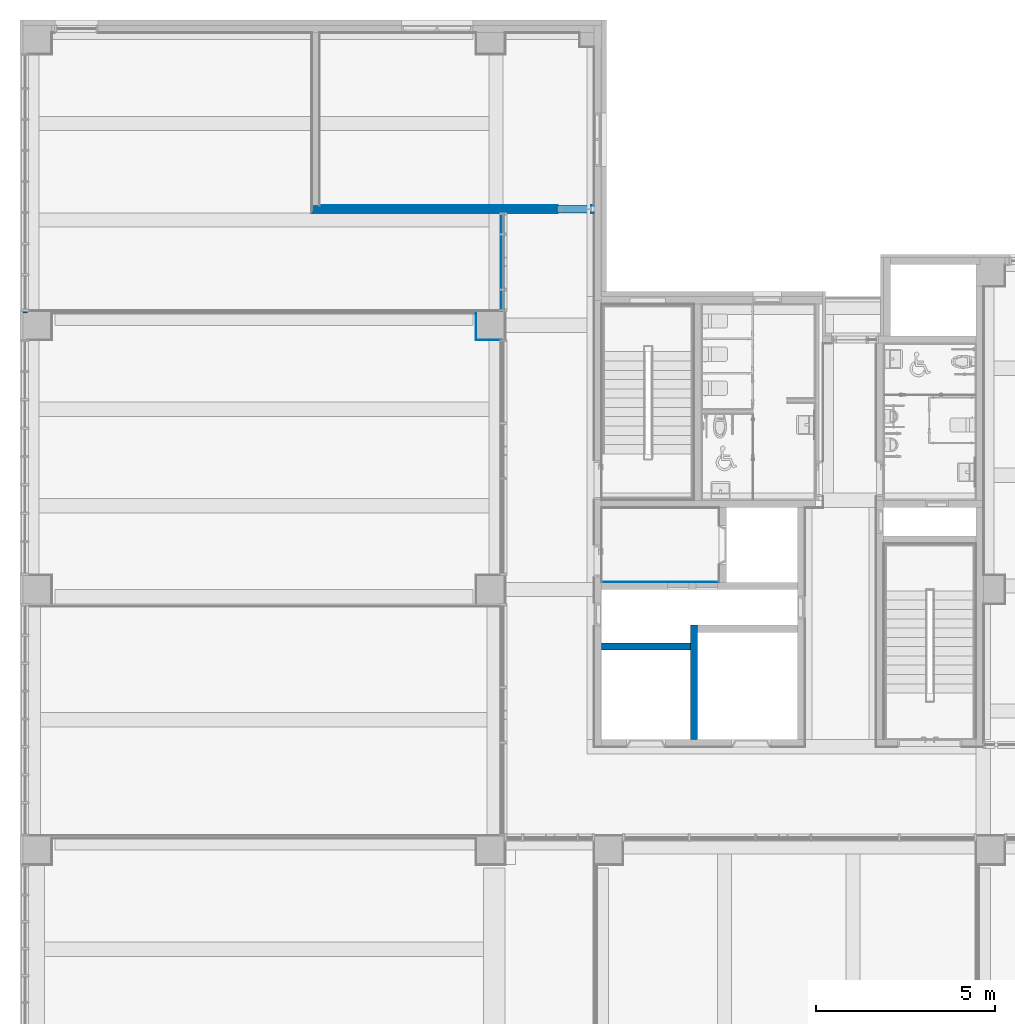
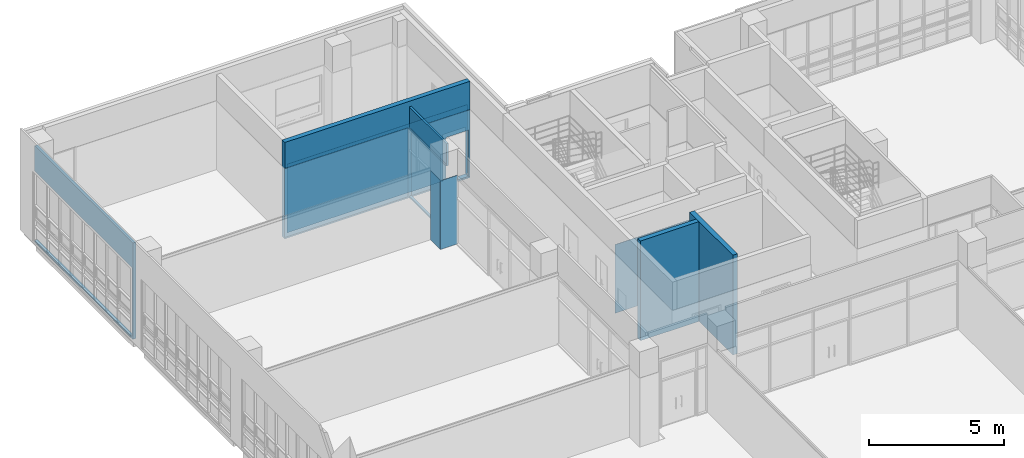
# One storey, part 50 of 74: 12 walls, 12 openings.
"""IFC2X3 building model written with IfcOpenShell, lengths in millimetres."""

from ifc_helpers import new_model, entity, si_unit, converted_unit, derived_unit, direction, frame, frame_2d, origin, origin_2d_with_axis, place, context, subcontext, project, spatial, polyline, rectangle, extrude, clip, bounded_halfspace, material, layer, layer_set, layer_usage, type_object, element, save


model = new_model("IFC2X3")

# Units and contexts
model_context = context("Model", 3, precision=0.01, world=origin(), true_north=direction((6.123031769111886e-17, 1.0)))
body_context = subcontext(model_context, "Body", "Model", "MODEL_VIEW")
ifc_project = project(units=[si_unit("LENGTHUNIT", "METRE", prefix="MILLI"), si_unit("AREAUNIT", "SQUARE_METRE"), si_unit("VOLUMEUNIT", "CUBIC_METRE"), converted_unit("PLANEANGLEUNIT", "DEGREE", entity("IfcRatioMeasure", 0.017453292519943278), si_unit("PLANEANGLEUNIT", "RADIAN"), dimensions=[0, 0, 0, 0, 0, 0, 0]), si_unit("MASSUNIT", "GRAM", prefix="KILO"), derived_unit("MASSDENSITYUNIT", [(si_unit("MASSUNIT", "GRAM", prefix="KILO"), 1), (si_unit("LENGTHUNIT", "METRE"), -3)]), derived_unit("MOMENTOFINERTIAUNIT", [(si_unit("LENGTHUNIT", "METRE"), 4)]), si_unit("TIMEUNIT", "SECOND"), si_unit("FREQUENCYUNIT", "HERTZ"), si_unit("THERMODYNAMICTEMPERATUREUNIT", "DEGREE_CELSIUS"), derived_unit("THERMALTRANSMITTANCEUNIT", [(si_unit("MASSUNIT", "GRAM", prefix="KILO"), 1), (si_unit("THERMODYNAMICTEMPERATUREUNIT", "KELVIN"), -1), (si_unit("TIMEUNIT", "SECOND"), -3)]), derived_unit("VOLUMETRICFLOWRATEUNIT", [(si_unit("LENGTHUNIT", "METRE"), 3), (si_unit("TIMEUNIT", "SECOND"), -1)]), derived_unit("MASSFLOWRATEUNIT", [(si_unit("MASSUNIT", "GRAM", prefix="KILO"), 1), (si_unit("TIMEUNIT", "SECOND"), -1)]), derived_unit("ROTATIONALFREQUENCYUNIT", [(si_unit("TIMEUNIT", "SECOND"), -1)]), si_unit("ELECTRICCURRENTUNIT", "AMPERE"), si_unit("ELECTRICVOLTAGEUNIT", "VOLT"), si_unit("POWERUNIT", "WATT"), si_unit("FORCEUNIT", "NEWTON", prefix="KILO"), si_unit("ILLUMINANCEUNIT", "LUX"), si_unit("LUMINOUSFLUXUNIT", "LUMEN"), si_unit("LUMINOUSINTENSITYUNIT", "CANDELA"), derived_unit("USERDEFINED", [(si_unit("MASSUNIT", "GRAM", prefix="KILO"), -1), (si_unit("LENGTHUNIT", "METRE"), -2), (si_unit("TIMEUNIT", "SECOND"), 3), (si_unit("LUMINOUSFLUXUNIT", "LUMEN"), 1)]), derived_unit("SOUNDPOWERUNIT", [(si_unit("MASSUNIT", "GRAM", prefix="KILO"), 1), (si_unit("LENGTHUNIT", "METRE"), 2), (si_unit("TIMEUNIT", "SECOND"), -3)]), derived_unit("SOUNDPRESSUREUNIT", [(si_unit("MASSUNIT", "GRAM", prefix="KILO"), 1), (si_unit("LENGTHUNIT", "METRE"), -1), (si_unit("TIMEUNIT", "SECOND"), -2)]), derived_unit("LINEARVELOCITYUNIT", [(si_unit("LENGTHUNIT", "METRE"), 1), (si_unit("TIMEUNIT", "SECOND"), -1)]), si_unit("PRESSUREUNIT", "PASCAL"), derived_unit("USERDEFINED", [(si_unit("LENGTHUNIT", "METRE"), -2), (si_unit("MASSUNIT", "GRAM", prefix="KILO"), 1), (si_unit("TIMEUNIT", "SECOND"), -2)]), derived_unit("LINEARFORCEUNIT", [(si_unit("MASSUNIT", "GRAM", prefix="KILO"), 1), (si_unit("LENGTHUNIT", "METRE"), 1), (si_unit("TIMEUNIT", "SECOND"), -2), (si_unit("LENGTHUNIT", "METRE"), -1)]), derived_unit("PLANARFORCEUNIT", [(si_unit("MASSUNIT", "GRAM", prefix="KILO"), 1), (si_unit("LENGTHUNIT", "METRE"), 1), (si_unit("TIMEUNIT", "SECOND"), -2), (si_unit("LENGTHUNIT", "METRE"), -2)])], contexts=[model_context])

# Site, building, storey
site_placement = place(None, frame((-14167.972527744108, -657.2125860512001, 0.0)))
site = spatial("IfcSite", under=ifc_project, at=site_placement, Name="Default", CompositionType="ELEMENT")
building_placement = place(site_placement, origin())
building = spatial("IfcBuilding", under=site, at=building_placement, Name="Sample Building", CompositionType="ELEMENT")
storey_placement = place(building_placement, frame((0.0, 0.0, 4800.0)))
storey = spatial("IfcBuildingStorey", under=building, at=storey_placement, Name="지상 2층", CompositionType="ELEMENT", Elevation=4800.000000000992)

# Walls
ifc_material_1 = material(Name="KBIMS-콘크리트")
ifc_layer_1 = layer(ifc_material_1, 200.0)
ifc_layer_set_1 = layer_set([ifc_layer_1], Name="기본 벽:WA111-철근콘크리트구조 벽 200mm_CW1")
ifc_layer_usage_1 = layer_usage(ifc_layer_set_1, "AXIS2", "NEGATIVE", 100.0)
wall_type_1 = type_object("IfcWallType", Name="기본 벽:WA111-철근콘크리트구조 벽 200mm_CW1", PredefinedType="STANDARD", material=ifc_layer_set_1)
wall_1_placement = place(storey_placement, frame((32867.97271708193, 15753.302947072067, -1.9340006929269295e-09), z_axis=(0.0, 0.0, 1.0), x_axis=(0.0, 1.0, 0.0)))
element("IfcWallStandardCase", 1, at=wall_1_placement, inside=storey, type_object=wall_type_1, material=ifc_layer_usage_1, Name="기본 벽:WA111-철근콘크리트구조 벽 200mm_CW1", ObjectType="기본 벽:WA111-철근콘크리트구조 벽 200mm_CW1", context=body_context, shape_type="SweptSolid", body=[
    extrude(rectangle(XDim=3203.9093625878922, YDim=200.0000000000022, at=frame_2d((1601.954681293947, -2.1032064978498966e-12), x_axis=(-1.0, 0.0))), origin(), (0.0, 0.0, 1.0), 4500.000000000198),
])
ifc_layer_usage_2 = layer_usage(ifc_layer_set_1, "AXIS2", "NEGATIVE", 100.0)
wall_2_placement = place(storey_placement, frame((32767.97271708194, 18357.212309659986, -1.9340006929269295e-09), z_axis=(0.0, 0.0, 1.0), x_axis=(-1.0, 0.0, 0.0)))
element("IfcWallStandardCase", 2, at=wall_2_placement, inside=storey, type_object=wall_type_1, material=ifc_layer_usage_2, Name="기본 벽:WA111-철근콘크리트구조 벽 200mm_CW1", ObjectType="기본 벽:WA111-철근콘크리트구조 벽 200mm_CW1", context=body_context, shape_type="SweptSolid", body=[
    extrude(rectangle(XDim=2500.008955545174, YDim=200.0, at=frame_2d((1250.004477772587, 9.592326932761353e-13), x_axis=(-1.0, 0.0))), origin(), (0.0, 0.0, 1.0), 4500.000000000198),
])

# Wall, opening
ifc_layer_usage_3 = layer_usage(ifc_layer_set_1, "AXIS2", "NEGATIVE", 100.0)
wall_3_placement = place(storey_placement, frame((30067.96376153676, 30607.21227524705, 0.0), z_axis=(0.0, 0.0, 1.0), x_axis=(-1.0, 0.0, 0.0)))
wall_3 = element("IfcWallStandardCase", 3, at=wall_3_placement, inside=storey, type_object=wall_type_1, material=ifc_layer_usage_3, Name="기본 벽:WA111-철근콘크리트구조 벽 200mm_CW1", ObjectType="기본 벽:WA111-철근콘크리트구조 벽 200mm_CW1", context=body_context, shape_type="Clipping", body=[
    clip(extrude(rectangle(XDim=7899.991270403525, YDim=199.99999999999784, at=frame_2d((3949.9956352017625, 2.4868995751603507e-13), x_axis=(-1.0, 0.0))), origin(), (0.0, 0.0, 1.0), 4350.0000000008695), bounded_halfspace(frame((7899.991270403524, -100.0, 4350.0), z_axis=(0.0, 0.0, -1.0), x_axis=(-1.0, 0.0, 0.0)), True, frame((7899.991270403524, -100.0, 4350.0), z_axis=(0.0, 0.0, -1.0), x_axis=(-1.0, 0.0, 0.0)), polyline([(0.0, 0.0), (60960.0, 0.0), (2407917.3392189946, 8.073857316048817e-09), (2407917.3392189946, 60960.0), (0.0, 60960.0), (0.0, 0.0)]))),
])
opening_1_placement = place(wall_3_placement, frame((1025.0, 100.0, 80.0)))
element("IfcOpeningElement", 4, at=opening_1_placement, cuts=wall_3, Name="DR111-외여닫이문(철재, 일반, 양개):DR111-외여닫이문(유리, 일반, 양개) 950x2100mm:1", ObjectType="Opening", context=body_context, shape_type="SweptSolid", body=[
    extrude(rectangle(XDim=2099.9999999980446, YDim=949.9999999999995, at=frame_2d((1049.9999999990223, 474.9999999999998), x_axis=(1.0, 0.0))), frame((0.0, 0.0, 0.0), z_axis=(0.0, -1.0, 0.0), x_axis=(0.0, 0.0, 1.0)), (0.0, 0.0, 1.0), 200.0),
])

# Wall, openings
ifc_material_2 = material(Name="KBIMS-시멘트 벽돌")
ifc_layer_2 = layer(ifc_material_2, 90.0)
ifc_layer_set_2 = layer_set([ifc_layer_2], Name="기본 벽:WA211-시멘트벽돌(일반) 벽 (0.5B) 90mm")
ifc_layer_usage_4 = layer_usage(ifc_layer_set_2, "AXIS2", "NEGATIVE", 45.0)
wall_type_2 = type_object("IfcWallType", Name="기본 벽:WA211-시멘트벽돌(일반) 벽 (0.5B) 90mm", PredefinedType="STANDARD", material=ifc_layer_set_2)
wall_4_placement = place(storey_placement, frame((27522.98031454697, 30507.21227524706, 0.0), z_axis=(0.0, 0.0, 1.0), x_axis=(0.0, -1.0, 0.0)))
wall_4 = element("IfcWallStandardCase", 5, at=wall_4_placement, inside=storey, type_object=wall_type_2, material=ifc_layer_usage_4, Name="기본 벽:WA211-시멘트벽돌(일반) 벽 (0.5B) 90mm", ObjectType="기본 벽:WA211-시멘트벽돌(일반) 벽 (0.5B) 90mm", context=body_context, shape_type="SweptSolid", body=[
    extrude(rectangle(XDim=2749.9999672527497, YDim=90.0000000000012, at=frame_2d((1374.9999836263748, -2.277289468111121e-12), x_axis=(-1.0, 0.0))), origin(), (0.0, 0.0, 1.0), 4100.000000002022),
])
opening_2_placement = place(wall_4_placement, origin())
element("IfcOpeningElement", 6, at=opening_2_placement, cuts=wall_4, Name="기본 벽:WA211-시멘트벽돌(일반) 벽 (0.5B) 90mm", ObjectType="Opening", context=body_context, shape_type="SweptSolid", body=[
    extrude(rectangle(XDim=3020.000000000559, YDim=2749.9996891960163, at=frame_2d((0.0, -2.1600499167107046e-12), x_axis=(1.0, 0.0))), frame((1374.9998445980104, -197.40000000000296, 1590.0), z_axis=(0.0, 1.0, 0.0), x_axis=(0.0, 0.0, 1.0)), (0.0, 0.0, 1.0), 394.8000000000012),
])
opening_3_placement = place(wall_4_placement, origin())
element("IfcOpeningElement", 7, at=opening_3_placement, cuts=wall_4, Name="기본 벽:WA211-시멘트벽돌(일반) 벽 (0.5B) 90mm", ObjectType="Opening", context=body_context, shape_type="SweptSolid", body=[
    extrude(rectangle(XDim=3020.000000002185, YDim=6500.0, at=frame_2d((0.0, 2.0463630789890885e-12), x_axis=(1.0, 0.0))), frame((14199.99996725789, -197.40000000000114, 1590.0), z_axis=(0.0, 1.0, 0.0), x_axis=(0.0, 0.0, 1.0)), (0.0, 0.0, 1.0), 394.8000000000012),
])
opening_4_placement = place(wall_4_placement, origin())
element("IfcOpeningElement", 8, at=opening_4_placement, cuts=wall_4, Name="기본 벽:WA211-시멘트벽돌(일반) 벽 (0.5B) 90mm", ObjectType="Opening", context=body_context, shape_type="SweptSolid", body=[
    extrude(rectangle(XDim=3020.000000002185, YDim=6599.999999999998, at=origin_2d_with_axis()), frame((6849.999967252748, -197.39999999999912, 1590.0), z_axis=(0.0, 1.0, 0.0), x_axis=(0.0, 0.0, 1.0)), (0.0, 0.0, 1.0), 394.8000000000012),
])

# Wall, opening
ifc_layer_3 = layer(ifc_material_1, 125.00000000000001)
ifc_layer_set_3 = layer_set([ifc_layer_3], Name="기본 벽:WA111-철근콘크리트구조 벽 125mm_W3")
ifc_layer_usage_5 = layer_usage(ifc_layer_set_3, "AXIS2", "NEGATIVE", 62.50000000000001)
wall_type_3 = type_object("IfcWallType", Name="기본 벽:WA111-철근콘크리트구조 벽 125mm_W3", PredefinedType="STANDARD", material=ifc_layer_set_3)
wall_5_placement = place(storey_placement, frame((14130.47257087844, 34957.21228055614, -1.9340006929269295e-09), z_axis=(0.0, 0.0, 1.0), x_axis=(0.0, -1.0, 0.0)))
wall_5 = element("IfcWallStandardCase", 9, at=wall_5_placement, inside=storey, type_object=wall_type_3, material=ifc_layer_usage_5, Name="기본 벽:WA111-철근콘크리트구조 벽 125mm_W3", ObjectType="기본 벽:WA111-철근콘크리트구조 벽 125mm_W3", context=body_context, shape_type="Clipping", body=[
    clip(extrude(rectangle(XDim=7249.999694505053, YDim=124.99999999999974, at=frame_2d((3624.9998472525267, 1.0906830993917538e-12), x_axis=(-1.0, 0.0))), origin(), (0.0, 0.0, 1.0), 4350.000000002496), bounded_halfspace(frame((0.0, -62.49999999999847, 4350.0), z_axis=(0.0, 0.0, -1.0), x_axis=(0.0, 1.0, 0.0)), True, frame((0.0, -62.49999999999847, 4350.0), z_axis=(0.0, 0.0, -1.0), x_axis=(0.0, 1.0, 0.0)), polyline([(0.0, 0.0), (38100.0, 0.0), (38100.0, 2194559.897438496), (38100.0, 2209799.9068851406), (0.0, 2209799.9068851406), (0.0, 0.0)]))),
])
opening_5_placement = place(wall_5_placement, origin())
element("IfcOpeningElement", 10, at=opening_5_placement, cuts=wall_5, Name="기본 벽:WA111-철근콘크리트구조 벽 125mm_W3", ObjectType="Opening", context=body_context, shape_type="SweptSolid", body=[
    extrude(rectangle(XDim=3120.0000000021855, YDim=7209.999999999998, at=frame_2d((-5.684341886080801e-13, 0.0), x_axis=(1.0, 0.0))), frame((3595.0, -214.8999999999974, 1640.0), z_axis=(0.0, 1.0, 0.0), x_axis=(0.0, 0.0, 1.0)), (0.0, 0.0, 1.0), 429.7999999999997),
])

# Wall, openings
ifc_material_3 = material(Name="WA611-수성페인트 (내부) 벽 (3회)")
ifc_layer_4 = layer(ifc_material_3, 1.0)
ifc_material_4 = material(Name="WA551-시멘트모르타르 (내부) 벽 18mm")
ifc_layer_5 = layer(ifc_material_4, 16.0)
ifc_material_5 = material(Name="WA555-콘크리트면정리 벽 (내부)")
ifc_layer_6 = layer(ifc_material_5, 1.0)
ifc_layer_set_4 = layer_set([ifc_layer_4, ifc_layer_5, ifc_layer_6], Name="기본 벽:A1-32-06A-콘크리트면정리, 시멘트모르타르(미장용), 수성페인트(내부) (18mm)")
ifc_layer_usage_6 = layer_usage(ifc_layer_set_4, "AXIS2", "POSITIVE", -9.000000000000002)
wall_type_4 = type_object("IfcWallType", Name="기본 벽:A1-32-06A-콘크리트면정리, 시멘트모르타르(미장용), 수성페인트(내부) (18mm)", PredefinedType="STANDARD", material=ifc_layer_set_4)
wall_6_placement = place(storey_placement, frame((33567.97249113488, 20166.21230798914, 80.0), z_axis=(0.0, 0.0, 1.0), x_axis=(-1.0, 0.0, 0.0)))
wall_6 = element("IfcWallStandardCase", 11, at=wall_6_placement, inside=storey, type_object=wall_type_4, material=ifc_layer_usage_6, Name="기본 벽:A1-32-06A-콘크리트면정리, 시멘트모르타르(미장용), 수성페인트(내부) (18mm)", ObjectType="기본 벽:A1-32-06A-콘크리트면정리, 시멘트모르타르(미장용), 수성페인트(내부) (18mm)", context=body_context, shape_type="SweptSolid", body=[
    extrude(rectangle(XDim=3282.008729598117, YDim=18.00000000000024, at=frame_2d((1641.0043647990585, -1.645794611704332e-12), x_axis=(-1.0, 0.0))), origin(), (0.0, 0.0, 1.0), 3100.000000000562),
])
opening_6_placement = place(wall_6_placement, origin())
element("IfcOpeningElement", 12, at=opening_6_placement, cuts=wall_6, Name="기본 벽:A1-32-06A-콘크리트면정리, 시멘트모르타르(미장용), 수성페인트(내부) (18mm)", ObjectType="Opening", context=body_context, shape_type="SweptSolid", body=[
    extrude(rectangle(XDim=800.0000000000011, YDim=600.0000000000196, at=frame_2d((5.684341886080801e-13, 0.0), x_axis=(1.0, 0.0))), frame((1150.0001804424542, -1315.0, 820.0), z_axis=(0.0, 1.0, 0.0), x_axis=(0.0, 0.0, -1.0)), (0.0, 0.0, 1.0), 3048.0),
])
opening_7_placement = place(wall_6_placement, origin())
element("IfcOpeningElement", 13, at=opening_7_placement, cuts=wall_6, Name="기본 벽:A1-32-06A-콘크리트면정리, 시멘트모르타르(미장용), 수성페인트(내부) (18mm)", ObjectType="Opening", context=body_context, shape_type="SweptSolid", body=[
    extrude(rectangle(XDim=800.0000000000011, YDim=600.0000000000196, at=frame_2d((0.0, -5.684341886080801e-13), x_axis=(0.0, 1.0))), frame((349.99990978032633, -1315.0, 820.0), z_axis=(0.0, 1.0, 0.0), x_axis=(1.0, 0.0, 0.0)), (0.0, 0.0, 1.0), 3048.0000000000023),
])

# Wall, opening
ifc_layer_usage_7 = layer_usage(ifc_layer_set_4, "AXIS2", "NEGATIVE", 9.000000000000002)
wall_7_placement = place(storey_placement, frame((22385.972491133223, 30716.212275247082, 80.0)))
wall_7 = element("IfcWallStandardCase", 14, at=wall_7_placement, inside=storey, type_object=wall_type_4, material=ifc_layer_usage_7, Name="기본 벽:A1-32-06A-콘크리트면정리, 시멘트모르타르(미장용), 수성페인트(내부) (18mm)", ObjectType="기본 벽:A1-32-06A-콘크리트면정리, 시멘트모르타르(미장용), 수성페인트(내부) (18mm)", context=body_context, shape_type="SweptSolid", body=[
    extrude(rectangle(XDim=7681.99127040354, YDim=18.00000000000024, at=frame_2d((3840.99563520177, -6.439293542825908e-13), x_axis=(1.0, 0.0))), origin(), (0.0, 0.0, 1.0), 3100.0000000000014),
])
opening_8_placement = place(wall_7_placement, origin())
element("IfcOpeningElement", 15, at=opening_8_placement, cuts=wall_7, Name="기본 벽:A1-32-06A-콘크리트면정리, 시멘트모르타르(미장용), 수성페인트(내부) (18mm)", ObjectType="Opening", context=body_context, shape_type="SweptSolid", body=[
    extrude(rectangle(XDim=2099.9999999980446, YDim=950.0000000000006, at=frame_2d((0.0, -5.684341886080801e-13), x_axis=(0.0, 1.0))), frame((7131.991270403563, -1733.0, 1050.0), z_axis=(0.0, 1.0, 0.0), x_axis=(-1.0, 0.0, 0.0)), (0.0, 0.0, 1.0), 3048.0),
])

# Wall, openings
ifc_layer_usage_8 = layer_usage(ifc_layer_set_4, "AXIS2", "NEGATIVE", 9.000000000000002)
wall_8_placement = place(storey_placement, frame((27468.98031454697, 27757.212307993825, 3100.0), z_axis=(0.0, 0.0, 1.0), x_axis=(0.0, 1.0, 0.0)))
wall_8 = element("IfcWallStandardCase", 16, at=wall_8_placement, inside=storey, type_object=wall_type_4, material=ifc_layer_usage_8, Name="기본 벽:A1-32-06A-콘크리트면정리, 시멘트모르타르(미장용), 수성페인트(내부) (18mm)", ObjectType="기본 벽:A1-32-06A-콘크리트면정리, 시멘트모르타르(미장용), 수성페인트(내부) (18mm)", context=body_context, shape_type="SweptSolid", body=[
    extrude(rectangle(XDim=2749.9999672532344, YDim=18.00000000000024, at=frame_2d((1374.9999836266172, -1.3837819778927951e-12), x_axis=(1.0, 0.0))), origin(), (0.0, 0.0, 1.0), 79.99999999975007),
])
opening_9_placement = place(wall_8_placement, origin())
element("IfcOpeningElement", 17, at=opening_9_placement, cuts=wall_8, Name="기본 벽:A1-32-06A-콘크리트면정리, 시멘트모르타르(미장용), 수성페인트(내부) (18mm)", ObjectType="Opening", context=body_context, shape_type="SweptSolid", body=[
    extrude(rectangle(XDim=3020.000000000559, YDim=2749.9996891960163, at=frame_2d((2.1600499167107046e-12, 0.0), x_axis=(0.0, 1.0))), frame((1375.0001226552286, -161.4000000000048, -1510.0), z_axis=(0.0, 1.0, 0.0), x_axis=(-1.0, 0.0, 0.0)), (0.0, 0.0, 1.0), 322.80000000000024),
])
opening_10_placement = place(wall_8_placement, origin())
element("IfcOpeningElement", 18, at=opening_10_placement, cuts=wall_8, Name="기본 벽:A1-32-06A-콘크리트면정리, 시멘트모르타르(미장용), 수성페인트(내부) (18mm)", ObjectType="Opening", context=body_context, shape_type="SweptSolid", body=[
    extrude(rectangle(XDim=3020.000000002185, YDim=6599.999999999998, at=frame_2d((0.0, 0.0), x_axis=(0.0, 1.0))), frame((-4100.0, -161.3999999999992, -1510.0), z_axis=(0.0, 1.0, 0.0), x_axis=(-1.0, 0.0, 0.0)), (0.0, 0.0, 1.0), 322.80000000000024),
])
opening_11_placement = place(wall_8_placement, origin())
element("IfcOpeningElement", 19, at=opening_11_placement, cuts=wall_8, Name="기본 벽:A1-32-06A-콘크리트면정리, 시멘트모르타르(미장용), 수성페인트(내부) (18mm)", ObjectType="Opening", context=body_context, shape_type="SweptSolid", body=[
    extrude(rectangle(XDim=3020.000000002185, YDim=6499.999999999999, at=frame_2d((0.0, 0.0), x_axis=(0.0, 1.0))), frame((-11450.0, -161.40000000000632, -1510.0), z_axis=(0.0, 1.0, 0.0), x_axis=(-1.0, 0.0, 0.0)), (0.0, 0.0, 1.0), 322.80000000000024),
])

# Walls
ifc_layer_usage_9 = layer_usage(ifc_layer_set_4, "AXIS2", "NEGATIVE", 9.000000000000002)
wall_9_placement = place(storey_placement, frame((27422.980314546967, 30498.21227524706, 80.0), z_axis=(0.0, 0.0, 1.0), x_axis=(-1.0, 0.0, 0.0)))
element("IfcWallStandardCase", 20, at=wall_9_placement, inside=storey, type_object=wall_type_4, material=ifc_layer_usage_9, Name="기본 벽:A1-32-06A-콘크리트면정리, 시멘트모르타르(미장용), 수성페인트(내부) (18mm)", ObjectType="기본 벽:A1-32-06A-콘크리트면정리, 시멘트모르타르(미장용), 수성페인트(내부) (18mm)", context=body_context, shape_type="SweptSolid", body=[
    extrude(rectangle(XDim=5273.007823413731, YDim=18.00000000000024, at=frame_2d((2636.5039117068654, -2.1662671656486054e-12), x_axis=(-1.0, 0.0))), origin(), (0.0, 0.0, 1.0), 3100.0000000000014),
])
ifc_layer_usage_10 = layer_usage(ifc_layer_set_4, "AXIS2", "NEGATIVE", 9.000000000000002)
wall_10_placement = place(storey_placement, frame((27478.06176345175, 26948.21230799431, 80.0), z_axis=(0.0, 0.0, 1.0), x_axis=(-1.0, 0.0, 0.0)))
element("IfcWallStandardCase", 21, at=wall_10_placement, inside=storey, type_object=wall_type_4, material=ifc_layer_usage_10, Name="기본 벽:A1-32-06A-콘크리트면정리, 시멘트모르타르(미장용), 수성페인트(내부) (18mm)", ObjectType="기본 벽:A1-32-06A-콘크리트면정리, 시멘트모르타르(미장용), 수성페인트(내부) (18mm)", context=body_context, shape_type="SweptSolid", body=[
    extrude(rectangle(XDim=728.0892723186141, YDim=18.00000000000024, at=frame_2d((364.04463615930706, -2.1662671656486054e-12), x_axis=(-1.0, 0.0))), origin(), (0.0, 0.0, 1.0), 3100.0000000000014),
])
ifc_layer_usage_11 = layer_usage(ifc_layer_set_4, "AXIS2", "NEGATIVE", 9.000000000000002)
wall_11_placement = place(storey_placement, frame((26758.972491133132, 26957.21230799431, 80.0), z_axis=(0.0, 0.0, 1.0), x_axis=(0.0, 1.0, 0.0)))
element("IfcWallStandardCase", 22, at=wall_11_placement, inside=storey, type_object=wall_type_4, material=ifc_layer_usage_11, Name="기본 벽:A1-32-06A-콘크리트면정리, 시멘트모르타르(미장용), 수성페인트(내부) (18mm)", ObjectType="기본 벽:A1-32-06A-콘크리트면정리, 시멘트모르타르(미장용), 수성페인트(내부) (18mm)", context=body_context, shape_type="SweptSolid", body=[
    extrude(rectangle(XDim=737.4999999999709, YDim=18.00000000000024, at=frame_2d((368.74999999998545, -2.1662671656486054e-12), x_axis=(-1.0, 0.0))), origin(), (0.0, 0.0, 1.0), 3100.0000000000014),
])

# Wall, opening
ifc_layer_usage_12 = layer_usage(ifc_layer_set_4, "AXIS2", "NEGATIVE", 9.000000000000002)
wall_12_placement = place(storey_placement, frame((30049.96376153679, 30498.212275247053, 80.0), z_axis=(0.0, 0.0, 1.0), x_axis=(-1.0, 0.0, 0.0)))
wall_12 = element("IfcWallStandardCase", 23, at=wall_12_placement, inside=storey, type_object=wall_type_4, material=ifc_layer_usage_12, Name="기본 벽:A1-32-06A-콘크리트면정리, 시멘트모르타르(미장용), 수성페인트(내부) (18mm)", ObjectType="기본 벽:A1-32-06A-콘크리트면정리, 시멘트모르타르(미장용), 수성페인트(내부) (18mm)", context=body_context, shape_type="Clipping", body=[
    clip(extrude(rectangle(XDim=18.00000000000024, YDim=2481.983446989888, at=frame_2d((1240.991723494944, -2.205347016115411e-12), x_axis=(0.0, 1.0))), origin(), (0.0, 0.0, 1.0), 3000.000000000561), bounded_halfspace(frame((0.0, -9.0, 0.0), z_axis=(1.0, 0.0, 0.0), x_axis=(0.0, 1.0, 0.0)), True, frame((0.0, -9.0, 0.0), z_axis=(1.0, 0.0, 0.0), x_axis=(0.0, 1.0, 0.0)), polyline([(0.0, 0.0), (5486.400000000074, 0.0), (5486.400000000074, 914400.0), (0.0, 914400.0), (0.0, 0.0)]))),
])
opening_12_placement = place(wall_12_placement, origin())
element("IfcOpeningElement", 24, at=opening_12_placement, cuts=wall_12, Name="기본 벽:A1-32-06A-콘크리트면정리, 시멘트모르타르(미장용), 수성페인트(내부) (18mm)", ObjectType="Opening", context=body_context, shape_type="SweptSolid", body=[
    extrude(rectangle(XDim=2099.9999999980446, YDim=950.0000000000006, at=frame_2d((-5.684341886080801e-13, 0.0), x_axis=(1.0, 0.0))), frame((532.0, -1533.0, 1050.0), z_axis=(0.0, 1.0, 0.0), x_axis=(0.0, 0.0, 1.0)), (0.0, 0.0, 1.0), 3048.0),
])

save(model, "model.ifc")
